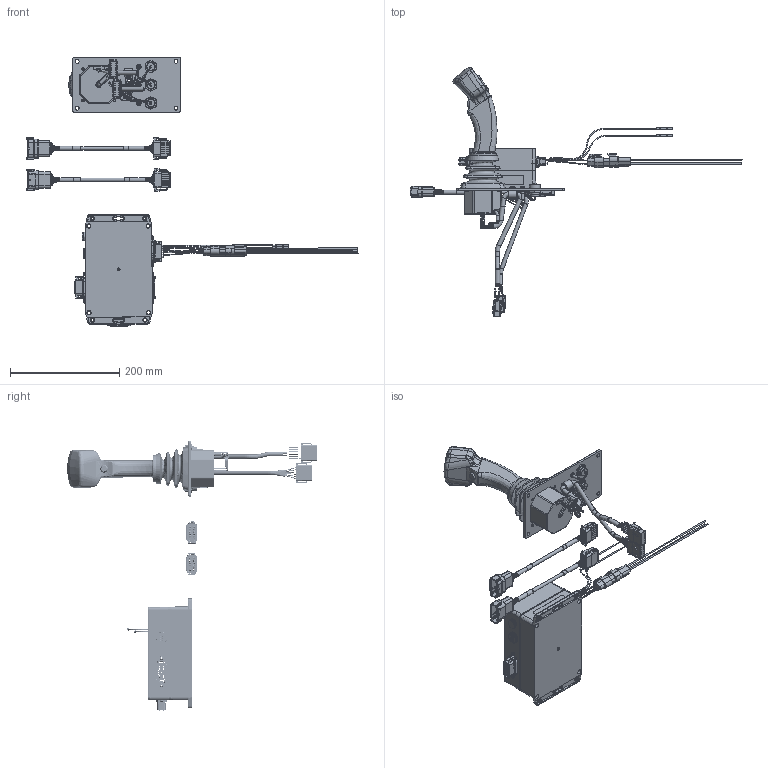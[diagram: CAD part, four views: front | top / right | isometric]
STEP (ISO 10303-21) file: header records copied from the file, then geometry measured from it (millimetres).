
FILE_DESCRIPTION (( 'STEP AP214' ), '1' );
FILE_NAME ('7038.STEP', '2015-09-01T19:10:58', ( '' ), ( '' ), 'SwSTEP 2.0', 'SolidWorks 2015', '' );
FILE_SCHEMA (( 'AUTOMOTIVE_DESIGN' ));
Length unit declared in the file: inch
Products named in the file (1): 7038
Bounding box: 607.67 x 457.34 x 494.14 mm (x, y, z)
Surface area: 324591.5 mm2 (no closed solid volume)
Topology: 0 solids, 432 shells, 2577 faces, 11065 edges, 8554 vertices
Faces by surface type: plane 1161, cylinder 787, bspline 336, torus 135, cone 127, sphere 31
Full cylindrical faces by diameter (mm): 0.635 x2, 0.787 x21, 0.792 x6, 0.794 x4, 1.143 x3, 1.191 x23, 1.194 x8, 1.524 x5, 1.575 x75, 1.905 x4, 1.93 x22, 2.007 x1, 2.489 x1, 2.54 x35, 2.565 x11, 3.15 x2, 3.175 x4, 3.429 x17, 3.698 x2, 3.81 x2, 4.775 x2, 4.826 x2, 4.978 x3, 5 x4, 5.558 x3, 5.994 x6, 6.35 x4, 6.82 x8, 7.01 x6, 7.137 x3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
Entity records: 185947 total; most frequent: CARTESIAN_POINT 71334, DIRECTION 15067, ORIENTED_EDGE 14154, EDGE_CURVE 10343, VERTEX_POINT 8469, LINE 5213, VECTOR 5213, AXIS2_PLACEMENT_3D 4927
